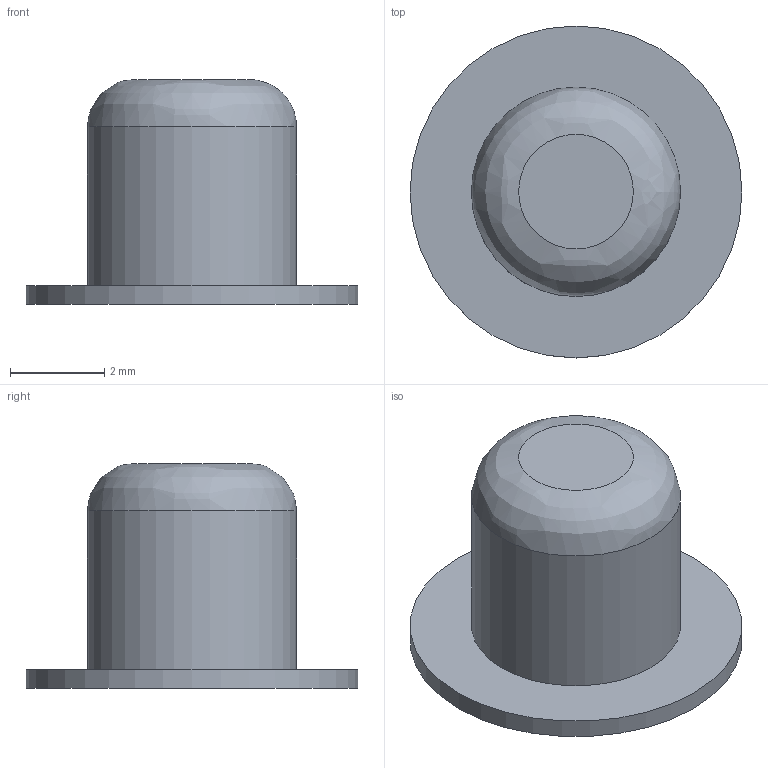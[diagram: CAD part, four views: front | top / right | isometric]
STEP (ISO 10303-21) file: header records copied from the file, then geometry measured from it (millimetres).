
FILE_DESCRIPTION(/* description */ (''),/* implementation_level */ '2;1');
FILE_NAME(/* name */ 'habit_tracker_buttoncap-joystick',/* time_stamp */ '2026-03-16T12:43:55+01:00',/* author */ (''),/* organization */ (''),/* preprocessor_version */ 'ST-DEVELOPER v19.2',/* originating_system */ 'Rhino 8.0',/* authorisation */ '');
FILE_SCHEMA (('CONFIG_CONTROL_DESIGN'));
Length unit declared in the file: millimetre
Products named in the file (1): Document
Bounding box: 7.03 x 7.03 x 4.76 mm (x, y, z)
Volume: 66.2 mm3; surface area: 165.9 mm2
Topology: 1 solids, 1 shells, 11 faces, 20 edges, 13 vertices
Faces by surface type: plane 8, cylinder 2, bspline 1
Full cylindrical faces by diameter (mm): 4.428 x1, 7.028 x1
Entity records: 365 total; most frequent: CARTESIAN_POINT 96, ORIENTED_EDGE 40, DIRECTION 26, EDGE_CURVE 20, AXIS2_PLACEMENT_3D 18, EDGE_LOOP 13, VERTEX_POINT 13, B_SPLINE_CURVE_WITH_KNOTS 12
